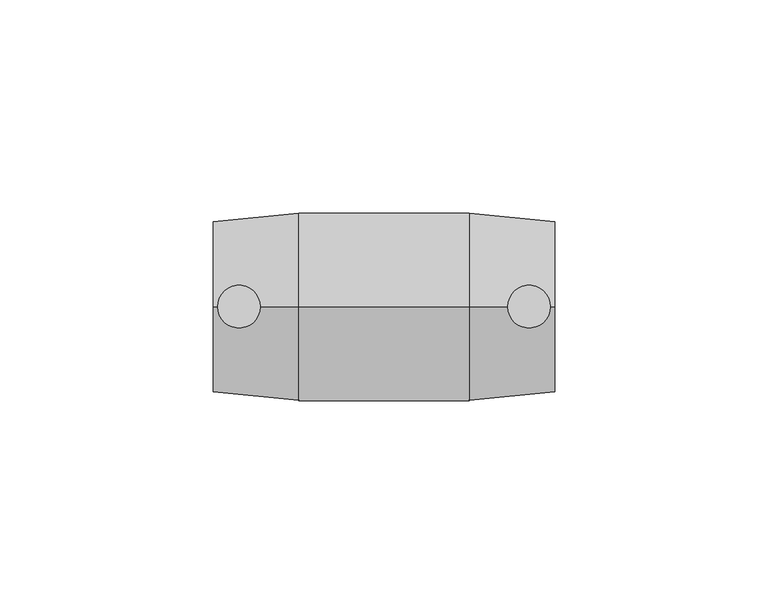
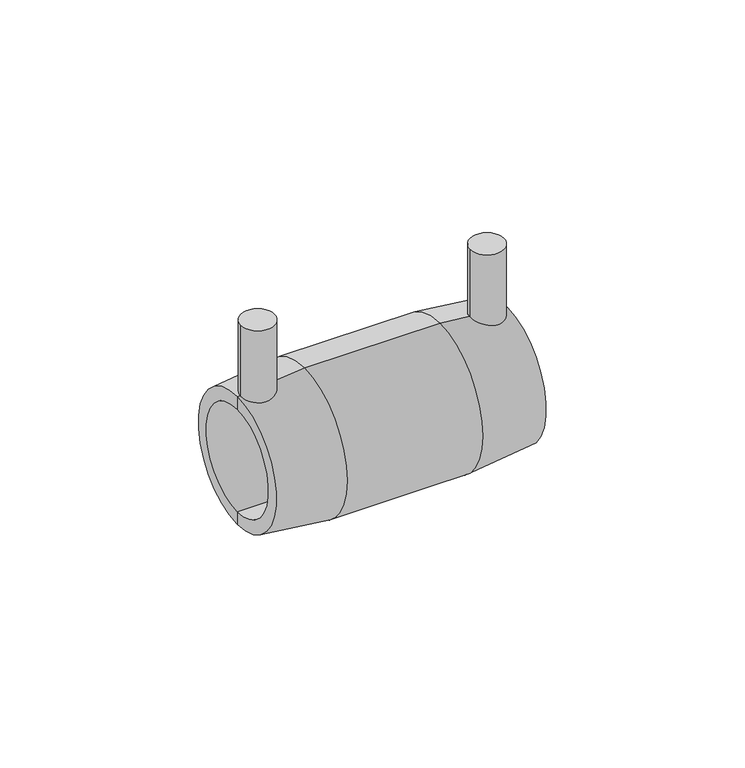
"""IFC4 building model written with IfcOpenShell, lengths in millimetres: pipe fitting geometry, Plumbing_Pipe-Fittings_Plasson_Coupler_4201G4 : Plumbing_Pipe-Fittings_Plasson_Coupler_4201G4."""

import ifcopenshell
import ifcopenshell.guid

model = None  # the IFC model being written
_history = None  # IfcOwnerHistory: only IFC2X3 demands one
_inside = {}  # id of a spatial element -> (the spatial element, [elements in it])
_under = {}  # id of a project, library or spatial element -> (it, [spatial elements below it])
_declared = {}  # id of a project -> (the project, [libraries it declares])
_typed = {}  # id of a type object -> (the type object, [elements of that type])
_made_of = {}  # id of a material, layer set ... -> (it, [elements and type objects made of it])


def new_model(schema):
    """Start an empty IFC model of exactly this schema.

    Asked for "IFC4X3", IfcOpenShell would pick the latest addendum, in which some entities
    have other attributes; the version numbers below select the first issue.
    IFC2X3 requires an IfcOwnerHistory on every rooted entity: one is made here for all.
    """
    global model, _history
    if schema == "IFC4X3":
        model = ifcopenshell.file(schema_version=(4, 3, 0, 0))
    else:
        model = ifcopenshell.file(schema=schema)
    _inside.clear()
    _under.clear()
    _declared.clear()
    _typed.clear()
    _made_of.clear()
    _history = None
    if model.schema == "IFC2X3":
        org = make("IfcOrganization", Name="unknown")
        user = make(
            "IfcPersonAndOrganization",
            ThePerson=make("IfcPerson", FamilyName="unknown"),
            TheOrganization=org,
        )
        app = make(
            "IfcApplication",
            ApplicationDeveloper=org,
            Version="unknown",
            ApplicationFullName="unknown",
            ApplicationIdentifier="unknown",
        )
        _history = make(
            "IfcOwnerHistory",
            OwningUser=user,
            OwningApplication=app,
            ChangeAction="ADDED",
            CreationDate=0,
        )
    return model


def make(cls, **values):
    """One entity of the class cls with the attributes given. An attribute that is None is left unset."""
    return model.create_entity(
        cls, **{name: value for name, value in values.items() if value is not None}
    )


def rooted(cls, **values):
    """An entity with a GlobalId (a new one), such as an element, a storey or a relation."""
    return make(cls, GlobalId=ifcopenshell.guid.new(), OwnerHistory=_history, **values)


def si_unit(unit_type, name, prefix=None):
    """IfcSIUnit, for example si_unit("LENGTHUNIT", "METRE", prefix="MILLI")."""
    return make("IfcSIUnit", UnitType=unit_type, Prefix=prefix, Name=name)


def assignment(units):
    """IfcUnitAssignment: the units of a project."""
    return None if units is None else make("IfcUnitAssignment", Units=units)


def point(xyz):
    """IfcCartesianPoint."""
    return None if xyz is None else make("IfcCartesianPoint", Coordinates=xyz)


def direction(xyz):
    """IfcDirection."""
    return None if xyz is None else make("IfcDirection", DirectionRatios=xyz)


def frame(location, z_axis=None, x_axis=None):
    """IfcAxis2Placement3D, a coordinate frame: its origin and axes. An axis left out is left unset."""
    return make(
        "IfcAxis2Placement3D",
        Location=point(location),
        Axis=direction(z_axis),
        RefDirection=direction(x_axis),
    )


def frame_2d(location, x_axis=None):
    """IfcAxis2Placement2D, a coordinate frame in the plane: its origin and x axis."""
    return make(
        "IfcAxis2Placement2D", Location=point(location), RefDirection=direction(x_axis)
    )


def origin():
    """The frame at (0, 0, 0) with its axes left unset."""
    return frame((0.0, 0.0, 0.0))


def place(relative_to, where):
    """IfcLocalPlacement: puts the frame where relative to a parent placement (None: the world)."""
    return make(
        "IfcLocalPlacement", PlacementRelTo=relative_to, RelativePlacement=where
    )


def context(
    kind, dimensions, precision=None, world=None, true_north=None, identifier=None
):
    """IfcGeometricRepresentationContext, for example the 3D "Model" context."""
    return make(
        "IfcGeometricRepresentationContext",
        ContextIdentifier=identifier,
        ContextType=kind,
        CoordinateSpaceDimension=dimensions,
        Precision=precision,
        WorldCoordinateSystem=world,
        TrueNorth=true_north,
    )


def project(units=None, contexts=None):
    """IfcProject with its units and contexts."""
    return rooted(
        "IfcProject",
        Name="project",
        RepresentationContexts=contexts,
        UnitsInContext=assignment(units),
    )


def spatial(cls, under=None, at=None, **own):
    """A site, building, storey or space (cls), placed at a placement, below another one or the project."""
    s = rooted(cls, ObjectPlacement=at, **own)
    if under is not None:
        _under.setdefault(under.id(), (under, []))[1].append(s)
    return s


def polyline(points):
    """IfcPolyline through the points."""
    return make("IfcPolyline", Points=[point(p) for p in points])


def circle_curve(where, radius):
    """IfcCircle in the frame where."""
    return make("IfcCircle", Position=where, Radius=radius)


def trimmed(basis, trim1, trim2, sense, master):
    """IfcTrimmedCurve: the piece of a basis curve between two trims."""
    return make(
        "IfcTrimmedCurve",
        BasisCurve=basis,
        Trim1=trim1,
        Trim2=trim2,
        SenseAgreement=sense,
        MasterRepresentation=master,
    )


def segment(curve, same_sense, transition):
    """IfcCompositeCurveSegment."""
    return make(
        "IfcCompositeCurveSegment",
        Transition=transition,
        SameSense=same_sense,
        ParentCurve=curve,
    )


def composite_curve(segments, self_intersect=None):
    """IfcCompositeCurve: segments joined end to end."""
    return make("IfcCompositeCurve", Segments=segments, SelfIntersect=self_intersect)


def outline(outer, holes=None, kind="AREA"):
    """IfcArbitraryClosedProfileDef: a profile drawn as a closed curve; with holes, ...WithVoids."""
    if holes is None:
        return make("IfcArbitraryClosedProfileDef", ProfileType=kind, OuterCurve=outer)
    return make(
        "IfcArbitraryProfileDefWithVoids",
        ProfileType=kind,
        OuterCurve=outer,
        InnerCurves=holes,
    )


def extrude(swept, where, along, depth):
    """IfcExtrudedAreaSolid: the profile swept, set in the frame where, extruded along a direction by depth."""
    return make(
        "IfcExtrudedAreaSolid",
        SweptArea=swept,
        Position=where,
        ExtrudedDirection=direction(along),
        Depth=depth,
    )


def shape(context_of_items, identifier, shape_type, items):
    """IfcShapeRepresentation: the items that make up one representation, for example the "Body"."""
    return make(
        "IfcShapeRepresentation",
        ContextOfItems=context_of_items,
        RepresentationIdentifier=identifier,
        RepresentationType=shape_type,
        Items=items,
    )


def source(mapping_origin, context_of_items, identifier, shape_type, items):
    """IfcRepresentationMap: a shape defined once, which mapped items show again and again."""
    return make(
        "IfcRepresentationMap",
        MappingOrigin=mapping_origin,
        MappedRepresentation=shape(context_of_items, identifier, shape_type, items),
    )


def transform(
    local_origin,
    x_axis=None,
    y_axis=None,
    z_axis=None,
    scale=None,
    scale2=None,
    scale3=None,
    uniform=True,
):
    """IfcCartesianTransformationOperator3D, or its non-uniform kind. x_axis, y_axis, z_axis: its Axis1, 2, 3."""
    if uniform:
        return make(
            "IfcCartesianTransformationOperator3D",
            Axis1=direction(x_axis),
            Axis2=direction(y_axis),
            LocalOrigin=point(local_origin),
            Scale=scale,
            Axis3=direction(z_axis),
        )
    return make(
        "IfcCartesianTransformationOperator3DnonUniform",
        Axis1=direction(x_axis),
        Axis2=direction(y_axis),
        LocalOrigin=point(local_origin),
        Scale=scale,
        Axis3=direction(z_axis),
        Scale2=scale2,
        Scale3=scale3,
    )


def mapped(mapping_source, mapping_target):
    """IfcMappedItem: shows the shape of a source again, moved by a transform."""
    return make(
        "IfcMappedItem", MappingSource=mapping_source, MappingTarget=mapping_target
    )


def made_of(thing, what):
    """Note that an element or type object is made of a material, layer set ...; save() writes the relation."""
    if what is not None:
        _made_of.setdefault(what.id(), (what, []))[1].append(thing)
    return thing


def element(
    cls,
    number,
    at=None,
    inside=None,
    cuts=None,
    type_object=None,
    material=None,
    context=None,
    identifier="Body",
    shape_type=None,
    held_by="IfcProductDefinitionShape",
    body=None,
    shapes=None,
    **own,
):
    """One element of the class cls, such as IfcWall. Its Tag is "e" and its number.

    at: its placement. inside: the storey or other place that contains it. cuts: it is an
    opening in that element (IfcRelVoidsElement). A single representation is given by context,
    identifier, shape_type and body (its items); several are given by shapes. held_by: the class
    of the entity that holds the representations. save() writes the other relations.
    """
    e = rooted(cls, Tag="e%d" % number, ObjectPlacement=at, **own)
    if body is not None:
        shapes = [shape(context, identifier, shape_type, body)]
    if shapes is not None:
        e.Representation = make(held_by, Representations=shapes)
    if inside is not None:
        _inside.setdefault(inside.id(), (inside, []))[1].append(e)
    if cuts is not None:
        rooted(
            "IfcRelVoidsElement", RelatingBuildingElement=cuts, RelatedOpeningElement=e
        )
    if type_object is not None:
        _typed.setdefault(type_object.id(), (type_object, []))[1].append(e)
    return made_of(e, material)


def aggregate(whole, parts):
    """IfcRelAggregates: a whole, such as a stair, and the parts it consists of."""
    return rooted("IfcRelAggregates", RelatingObject=whole, RelatedObjects=parts)


def save(model, path):
    """Write the relations noted so far, then the file.

    IfcRelAggregates (storeys below a building ...), IfcRelContainedInSpatialStructure (elements
    in a storey), IfcRelDefinesByType, IfcRelAssociatesMaterial and IfcRelDeclares: one each for
    every whole, place, type object, material and project.
    """
    for whole, parts in _under.values():
        aggregate(whole, parts)
    for where, things in _inside.values():
        rooted(
            "IfcRelContainedInSpatialStructure",
            RelatedElements=things,
            RelatingStructure=where,
        )
    for kind, things in _typed.values():
        rooted("IfcRelDefinesByType", RelatedObjects=things, RelatingType=kind)
    for what, things in _made_of.values():
        rooted("IfcRelAssociatesMaterial", RelatedObjects=things, RelatingMaterial=what)
    for by, libraries in _declared.values():
        rooted("IfcRelDeclares", RelatingContext=by, RelatedDefinitions=libraries)
    model.write(path)


def plane_surface(at):
    """IfcPlane: the flat surface through the origin of the frame at, square to its z axis."""
    return make("IfcPlane", Position=at)


def cylinder_surface(at, radius):
    """IfcCylindricalSurface: all points at the distance radius from the z axis of the frame at."""
    return make("IfcCylindricalSurface", Position=at, Radius=radius)


def revolved_surface(curve, axis_point, axis_direction):
    """IfcSurfaceOfRevolution: the curve turned about the line through axis_point along axis_direction."""
    return make(
        "IfcSurfaceOfRevolution",
        SweptCurve=make("IfcArbitraryOpenProfileDef", ProfileType="CURVE", Curve=curve),
        AxisPosition=make("IfcAxis1Placement", Location=point(axis_point), Axis=direction(axis_direction)),
    )


def advanced_brep(points, edges, surfaces, faces):
    """IfcAdvancedBrep: a solid bounded by faces that lie on surfaces and meet in shared edges.

    An edge is (start, end): straight between two places in points (the first is 0);
    or (start, end, curve); or (start, end, curve, False) where it runs against its curve.
    A face is (place in surfaces, loops), or (place, loops, False) where it looks against
    its surface's normal. A loop lists edges by number (the first is 1), with a minus sign
    where the edge is run from its end to its start. The first loop is the outer one.
    """
    corners = [point(p) for p in points]
    vertices = [make("IfcVertexPoint", VertexGeometry=c) for c in corners]
    made = []
    for start, end, *more in edges:
        made.append(
            make(
                "IfcEdgeCurve",
                EdgeStart=vertices[start],
                EdgeEnd=vertices[end],
                EdgeGeometry=more[0] if more else make("IfcPolyline", Points=[corners[start], corners[end]]),
                SameSense=more[1] if len(more) > 1 else True,
            )
        )
    hull = []
    for where, loops, *sense in faces:
        bounds = []
        for j, loop in enumerate(loops):
            ring = [make("IfcOrientedEdge", EdgeElement=made[abs(k) - 1], Orientation=k > 0) for k in loop]
            bounds.append(
                make(
                    "IfcFaceOuterBound" if j == 0 else "IfcFaceBound",
                    Bound=make("IfcEdgeLoop", EdgeList=ring),
                    Orientation=True,
                )
            )
        hull.append(make("IfcAdvancedFace", Bounds=bounds, FaceSurface=surfaces[where], SameSense=sense[0] if sense else True))
    return make("IfcAdvancedBrep", Outer=make("IfcClosedShell", CfsFaces=hull))


def pipe_fitting_fce33195(model_context):
    return source(origin(), model_context, "Body", "SolidModel", [
        extrude(outline(composite_curve([segment(trimmed(circle_curve(frame_2d((-34.0, 0.0)), 5.0), [point((-39.0, 0.0))], [point((-29.0, 0.0))], False, "CARTESIAN"), True, "CONTINUOUS"), segment(trimmed(circle_curve(frame_2d((-34.0, 0.0)), 5.0), [point((-29.0, 0.0))], [point((-39.0, 0.0))], False, "CARTESIAN"), True, "CONTINUOUS")], self_intersect=False)), frame((0.0, 0.0, 19.0), z_axis=(0.0, 0.0, 1.0), x_axis=(1.0, 0.0, 0.0)), (0.0, 0.0, 1.0), 23.0),
        extrude(outline(composite_curve([segment(trimmed(circle_curve(frame_2d((34.0, 0.0)), 5.0), [point((29.0, 0.0))], [point((39.0, 0.0))], False, "CARTESIAN"), True, "CONTINUOUS"), segment(trimmed(circle_curve(frame_2d((34.0, 0.0)), 5.0), [point((39.0, 0.0))], [point((29.0, 0.0))], False, "CARTESIAN"), True, "CONTINUOUS")], self_intersect=False)), frame((0.0, 0.0, 19.0), z_axis=(0.0, 0.0, 1.0), x_axis=(1.0, 0.0, 0.0)), (0.0, 0.0, 1.0), 23.0),
        advanced_brep(
        [(-1.0, 0.0, -16.0), (-1.0, 0.0, 16.0), (-40.0, 0.0, 16.0), (-40.0, 0.0, -16.0), (40.0, 0.0, -20.0), (40.0, 0.0, 20.0), (40.0, 0.0, 16.0), (40.0, 0.0, -16.0), (-20.0, 0.0, -22.0), (-20.0, 0.0, 22.0), (20.0, 0.0, 22.0), (20.0, 0.0, -22.0), (-40.0, 0.0, 20.0), (-40.0, 0.0, -20.0), (-1.0, 0.0, -13.0), (-1.0, 0.0, 13.0), (1.0, 0.0, -13.0), (1.0, 0.0, 13.0), (1.0, 0.0, -16.0), (1.0, 0.0, 16.0)],
        [
            (0, 1, circle_curve(frame((-1.0, 0.0, 0.0), z_axis=(1.0, 0.0, 0.0), x_axis=(0.0, 0.0, 1.0)), 16.0)),
            (1, 2),
            (2, 3, circle_curve(frame((-40.0, 0.0, 0.0), z_axis=(-1.0, 0.0, 0.0), x_axis=(0.0, 0.0, 1.0)), 16.0)),
            (3, 0),
            (1, 0, circle_curve(frame((-1.0, 0.0, 0.0), z_axis=(1.0, 0.0, 0.0), x_axis=(0.0, 0.0, 1.0)), 16.0)),
            (3, 2, circle_curve(frame((-40.0, 0.0, 0.0), z_axis=(-1.0, 0.0, 0.0), x_axis=(0.0, 0.0, 1.0)), 16.0)),
            (4, 5, circle_curve(frame((40.0, 0.0, 0.0), z_axis=(1.0, 0.0, 0.0), x_axis=(0.0, 0.0, 1.0)), 20.0)),
            (5, 6),
            (6, 7, circle_curve(frame((40.0, 0.0, 0.0), z_axis=(-1.0, 0.0, 0.0), x_axis=(0.0, 0.0, 1.0)), 16.0)),
            (7, 4),
            (5, 4, circle_curve(frame((40.0, 0.0, 0.0), z_axis=(1.0, 0.0, 0.0), x_axis=(0.0, 0.0, 1.0)), 20.0)),
            (7, 6, circle_curve(frame((40.0, 0.0, 0.0), z_axis=(-1.0, 0.0, 0.0), x_axis=(0.0, 0.0, 1.0)), 16.0)),
            (8, 9, circle_curve(frame((-20.0, 0.0, 0.0), z_axis=(1.0, 0.0, 0.0), x_axis=(0.0, 0.0, 1.0)), 22.0)),
            (9, 10),
            (10, 11, circle_curve(frame((20.0, 0.0, 0.0), z_axis=(-1.0, 0.0, 0.0), x_axis=(0.0, 0.0, 1.0)), 22.0)),
            (11, 8),
            (9, 8, circle_curve(frame((-20.0, 0.0, 0.0), z_axis=(1.0, 0.0, 0.0), x_axis=(0.0, 0.0, 1.0)), 22.0)),
            (11, 10, circle_curve(frame((20.0, 0.0, 0.0), z_axis=(-1.0, 0.0, 0.0), x_axis=(0.0, 0.0, 1.0)), 22.0)),
            (2, 12),
            (12, 13, circle_curve(frame((-40.0, 0.0, 0.0), z_axis=(-1.0, 0.0, 0.0), x_axis=(0.0, 0.0, 1.0)), 20.0)),
            (13, 3),
            (13, 12, circle_curve(frame((-40.0, 0.0, 0.0), z_axis=(-1.0, 0.0, 0.0), x_axis=(0.0, 0.0, 1.0)), 20.0)),
            (10, 5),
            (4, 11),
            (12, 9),
            (8, 13),
            (14, 15, circle_curve(frame((-1.0, 0.0, 0.0), z_axis=(1.0, 0.0, 0.0), x_axis=(0.0, 0.0, 1.0)), 13.0)),
            (15, 1),
            (0, 14),
            (15, 14, circle_curve(frame((-1.0, 0.0, 0.0), z_axis=(1.0, 0.0, 0.0), x_axis=(0.0, 0.0, 1.0)), 13.0)),
            (16, 17, circle_curve(frame((1.0, 0.0, 0.0), z_axis=(1.0, 0.0, 0.0), x_axis=(0.0, 0.0, 1.0)), 13.0)),
            (17, 15),
            (14, 16),
            (17, 16, circle_curve(frame((1.0, 0.0, 0.0), z_axis=(1.0, 0.0, 0.0), x_axis=(0.0, 0.0, 1.0)), 13.0)),
            (18, 19, circle_curve(frame((1.0, 0.0, 0.0), z_axis=(1.0, 0.0, 0.0), x_axis=(0.0, 0.0, 1.0)), 16.0)),
            (19, 17),
            (16, 18),
            (19, 18, circle_curve(frame((1.0, 0.0, 0.0), z_axis=(1.0, 0.0, 0.0), x_axis=(0.0, 0.0, 1.0)), 16.0)),
            (6, 19),
            (18, 7),
        ],
        [
            revolved_surface(polyline([(-40.0, 0.0, 16.0), (-1.0, 0.0, 16.0)]), (-40.0, 0.0, 0.0), (-1.0, 0.0, 0.0)),
            plane_surface(frame((40.0, 0.0, 0.0), z_axis=(1.0, 0.0, 0.0), x_axis=(0.0, 0.0, 1.0))),
            cylinder_surface(frame((-40.0, 0.0, 0.0), z_axis=(-1.0, 0.0, 0.0), x_axis=(0.0, 0.0, 1.0)), 22.0),
            plane_surface(frame((-40.0, 0.0, 0.0), z_axis=(-1.0, 0.0, 0.0), x_axis=(0.0, 0.0, 1.0))),
            revolved_surface(polyline([(40.0, 0.0, 20.0), (20.0, 0.0, 22.0)]), (-40.0, 0.0, 0.0), (-1.0, 0.0, 0.0)),
            revolved_surface(polyline([(-20.0, 0.0, 22.0), (-40.0, 0.0, 20.0)]), (-40.0, 0.0, 0.0), (-1.0, 0.0, 0.0)),
            plane_surface(frame((-1.0, 0.0, 0.0), z_axis=(-1.0, 0.0, 0.0), x_axis=(0.0, 0.0, 1.0))),
            revolved_surface(polyline([(-1.0, 0.0, 13.0), (1.0, 0.0, 13.0)]), (-40.0, 0.0, 0.0), (-1.0, 0.0, 0.0)),
            plane_surface(frame((1.0, 0.0, 0.0), z_axis=(1.0, 0.0, 0.0), x_axis=(0.0, 0.0, 1.0))),
            revolved_surface(polyline([(1.0, 0.0, 16.0), (40.0, 0.0, 16.0)]), (-40.0, 0.0, 0.0), (-1.0, 0.0, 0.0)),
        ],
        [
            (0, [[1, 2, 3, 4]]),
            (0, [[5, -4, 6, -2]]),
            (1, [[7, 8, 9, 10]]),
            (1, [[11, -10, 12, -8]]),
            (2, [[13, 14, 15, 16]]),
            (2, [[17, -16, 18, -14]]),
            (3, [[-3, 19, 20, 21]]),
            (3, [[-6, -21, 22, -19]]),
            (4, [[-15, 23, -7, 24]]),
            (4, [[-18, -24, -11, -23]]),
            (5, [[-20, 25, -13, 26]]),
            (5, [[-22, -26, -17, -25]]),
            (6, [[27, 28, -1, 29]]),
            (6, [[30, -29, -5, -28]]),
            (7, [[31, 32, -27, 33]]),
            (7, [[34, -33, -30, -32]]),
            (8, [[35, 36, -31, 37]]),
            (8, [[38, -37, -34, -36]]),
            (9, [[-9, 39, -35, 40]]),
            (9, [[-12, -40, -38, -39]]),
        ],
    ),
    ])


if __name__ == "__main__":
    model = new_model("IFC4")
    model_context = context("Model", 3, world=origin())
    ifc_project = project(units=[si_unit("LENGTHUNIT", "METRE", prefix="MILLI")], contexts=[model_context])
    site = spatial("IfcSite", under=ifc_project)
    building = spatial("IfcBuilding", under=site)
    placement = place(None, origin())
    pipe_fitting_shape = pipe_fitting_fce33195(model_context)
    element("IfcPipeFitting", 1, ObjectType="Plumbing_Pipe-Fittings_Plasson_Coupler_4201G4 : Plumbing_Pipe-Fittings_Plasson_Coupler_4201G4", at=placement, inside=building, context=model_context, shape_type="MappedRepresentation", body=[
        mapped(pipe_fitting_shape, transform((0.0, 0.0, 0.0), x_axis=(1.0, 0.0, 0.0), y_axis=(0.0, 1.0, 0.0), z_axis=(0.0, 0.0, 1.0))),
    ])
    save(model, "model.ifc")
